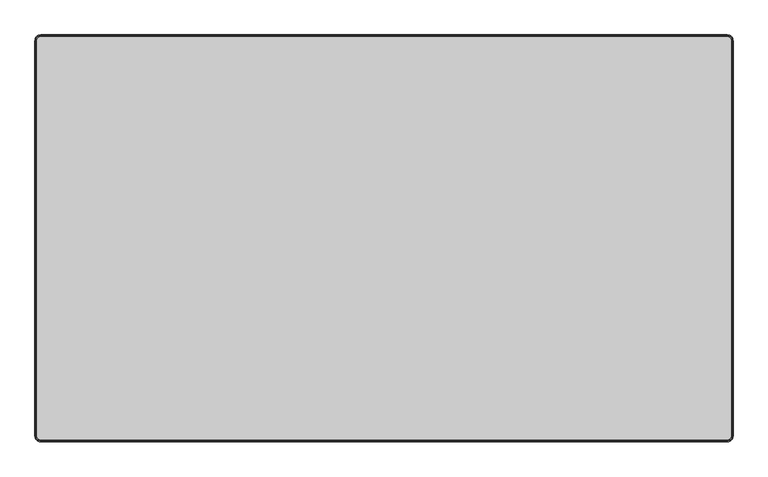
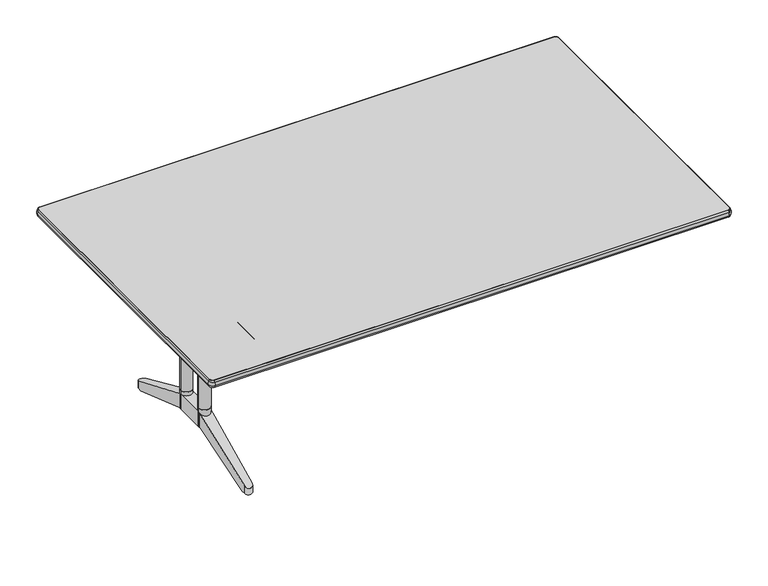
"""IFC4 building model written with IfcOpenShell, lengths in millimetres: furniture geometry."""

from ifc_helpers import new_model, si_unit, point, frame, frame_2d, origin, place, context, project, spatial, polyline, circle_curve, ellipse_curve, trimmed, segment, composite_curve, outline, extrude, source, transform, mapped, element, save
from ifc_brep_helpers import plane_surface, cylinder_surface, revolved_surface, advanced_brep


def furniture_3bf29cbd(model_context):
    return source(origin(), model_context, "Body", "SolidModel", [
        extrude(outline(composite_curve([segment(trimmed(circle_curve(frame_2d((-660.4, -154.0488451)), 20.0), [point((-680.4, -154.0488451))], [point((-640.4, -154.0488451))], False, "CARTESIAN"), True, "CONTINUOUS"), segment(trimmed(circle_curve(frame_2d((-660.4, -154.0488451)), 20.0), [point((-640.4, -154.0488451))], [point((-680.4, -154.0488451))], False, "CARTESIAN"), True, "CONTINUOUS")], self_intersect=False)), frame((0.0, 0.0, 193.3080085), z_axis=(0.0, 0.0, 1.0), x_axis=(1.0, 0.0, 0.0)), (0.0, 0.0, 1.0), 68.8536941),
        extrude(outline(composite_curve([segment(trimmed(circle_curve(frame_2d((-660.4, -44.0488461)), 20.0), [point((-680.4, -44.0488461))], [point((-640.4, -44.0488461))], False, "CARTESIAN"), True, "CONTINUOUS"), segment(trimmed(circle_curve(frame_2d((-660.4, -44.0488461)), 20.0), [point((-640.4, -44.0488461))], [point((-680.4, -44.0488461))], False, "CARTESIAN"), True, "CONTINUOUS")], self_intersect=False)), frame((0.0, 0.0, 193.3080085), z_axis=(0.0, 0.0, 1.0), x_axis=(1.0, 0.0, 0.0)), (0.0, 0.0, 1.0), 68.8536941),
        extrude(outline(composite_curve([segment(trimmed(circle_curve(frame_2d((-660.4, -154.0488451)), 20.0), [point((-680.4, -154.0488451))], [point((-640.4, -154.0488451))], False, "CARTESIAN"), True, "CONTINUOUS"), segment(trimmed(circle_curve(frame_2d((-660.4, -154.0488451)), 20.0), [point((-640.4, -154.0488451))], [point((-680.4, -154.0488451))], False, "CARTESIAN"), True, "CONTINUOUS")], self_intersect=False)), frame((0.0, 0.0, 262.1617027), z_axis=(0.0, 0.0, 1.0), x_axis=(1.0, 0.0, 0.0)), (0.0, 0.0, 1.0), 318.0882973),
        extrude(outline(composite_curve([segment(trimmed(circle_curve(frame_2d((-660.4, -44.0488461)), 20.0), [point((-680.4, -44.0488461))], [point((-640.4, -44.0488461))], False, "CARTESIAN"), True, "CONTINUOUS"), segment(trimmed(circle_curve(frame_2d((-660.4, -44.0488461)), 20.0), [point((-640.4, -44.0488461))], [point((-680.4, -44.0488461))], False, "CARTESIAN"), True, "CONTINUOUS")], self_intersect=False)), frame((0.0, 0.0, 262.1617027), z_axis=(0.0, 0.0, 1.0), x_axis=(1.0, 0.0, 0.0)), (0.0, 0.0, 1.0), 318.0882973),
        extrude(outline(polyline([(-634.3999882, 147.9511612), (-634.3999882, -352.0488426), (-686.4000118, -352.0488426), (-686.4000118, 147.9511612), (-634.3999882, 147.9511612)])), frame((0.0, 0.0, 676.2500168), z_axis=(0.0, 0.0, 1.0), x_axis=(1.0, 0.0, 0.0)), (0.0, 0.0, 1.0), 27.9999624),
        advanced_brep(
        [(-675.3998762, -140.8200278, 676.2500168), (-645.3998905, -140.8201331, 676.2500168), (-645.3998905, -134.0488456, 676.2500168), (-675.3998762, -134.0488456, 676.2500168), (-645.3998905, -57.2775581, 676.2500168), (-675.3998762, -57.2776634, 676.2500168), (-675.3998762, -64.0488456, 676.2500168), (-645.3998905, -64.0488456, 676.2500168), (-675.3998762, -57.2776634, 580.25), (-645.3998905, -57.2775581, 580.25), (-645.3998905, -140.8201331, 580.25), (-675.3998762, -140.8200278, 580.25), (-675.3998762, -134.0488456, 598.2500176), (-675.3998762, -64.0488456, 598.2500176), (-645.3998905, -64.0488456, 598.2500176), (-645.3998905, -134.0488456, 598.2500176)],
        [
            (0, 1, circle_curve(frame((-660.3999298, -154.0488451, 676.2500168), z_axis=(0.0, 0.0, 1.0), x_axis=(1.0, 0.0, 0.0)), 20.0)),
            (1, 2),
            (2, 3),
            (3, 0),
            (4, 5, circle_curve(frame((-660.3999298, -44.0488461, 676.2500168), z_axis=(0.0, 0.0, 1.0), x_axis=(1.0, 0.0, 0.0)), 20.0)),
            (5, 6),
            (6, 7),
            (7, 4),
            (8, 9, circle_curve(frame((-660.3999298, -44.0488461, 580.25), z_axis=(0.0, 0.0, -1.0), x_axis=(1.0, 0.0, 0.0)), 20.0)),
            (9, 10),
            (10, 11, circle_curve(frame((-660.3999298, -154.0488451, 580.25), z_axis=(0.0, 0.0, -1.0), x_axis=(1.0, 0.0, 0.0)), 20.0)),
            (11, 8),
            (11, 0),
            (3, 12),
            (12, 13),
            (13, 6),
            (5, 8),
            (10, 1),
            (9, 4),
            (7, 14),
            (14, 15),
            (15, 2),
            (15, 12),
            (14, 13),
        ],
        [
            plane_surface(frame((-675.3998762, -140.8200278, 676.2500168), z_axis=(0.0, 0.0, 1.0), x_axis=(0.0, -1.0, 0.0))),
            plane_surface(frame((-675.3998762, -140.8200278, 580.25), z_axis=(0.0, 0.0, -1.0), x_axis=(0.0, 1.0, 0.0))),
            plane_surface(frame((-675.3998762, -57.2776634, 676.2500168), z_axis=(-1.0, 0.0, 0.0), x_axis=(0.0, 0.0, -1.0))),
            cylinder_surface(frame((-660.3999298, -154.0488451, 580.25), z_axis=(0.0, 0.0, 1.0), x_axis=(1.0, 0.0, 0.0)), 20.0),
            plane_surface(frame((-645.3998905, -140.8201331, 676.2500168), z_axis=(1.0, 0.0, 0.0), x_axis=(0.0, 0.0, -1.0))),
            cylinder_surface(frame((-660.3999298, -44.0488461, 580.25), z_axis=(0.0, 0.0, 1.0), x_axis=(1.0, 0.0, 0.0)), 20.0),
            plane_surface(frame((-645.3998905, -134.0488456, 676.2500168), z_axis=(0.0, 1.0, 0.0), x_axis=(-1.0, 0.0, 0.0))),
            plane_surface(frame((-645.3998905, -134.0488456, 598.2500176), z_axis=(0.0, 0.0, 1.0), x_axis=(-1.0, 0.0, 0.0))),
            plane_surface(frame((-645.3998905, -64.0488456, 598.2500176), z_axis=(0.0, -1.0, 0.0), x_axis=(-1.0, 0.0, 0.0))),
        ],
        [
            (0, [[1, 2, 3, 4]]),
            (0, [[5, 6, 7, 8]]),
            (1, [[9, 10, 11, 12]]),
            (2, [[-12, 13, -4, 14, 15, 16, -6, 17]]),
            (3, [[-1, -13, -11, 18]]),
            (4, [[-10, 19, -8, 20, 21, 22, -2, -18]]),
            (5, [[-5, -19, -9, -17]]),
            (6, [[23, -14, -3, -22]]),
            (7, [[-23, -21, 24, -15]]),
            (8, [[-24, -20, -7, -16]]),
        ],
    ),
        advanced_brep(
        [(-640.4000182, -154.0488451, 248.3080085), (-640.4000182, -44.0488461, 248.3080085), (-680.4000182, -44.0488461, 248.3080085), (-680.4000182, -154.0488451, 248.3080085), (-680.4000182, -44.0488461, 193.3080085), (-680.4000182, -154.0488451, 193.3080085), (-640.4000182, -154.0488451, 193.3080085), (-640.4000182, -44.0488461, 193.3080085), (-646.9271049, 208.4135103, 105.0), (-673.872897, 208.4135103, 105.0), (-673.5262294, 221.8222582, 105.0), (-647.2737706, 221.8222564, 105.0), (-673.5262294, 221.8222582, 133.4205559), (-647.2737706, 221.8222564, 133.4205567), (-640.6000412, -36.3121196, 193.3080085), (-680.1999941, -36.3121196, 193.3080085), (-647.2737706, -419.9199475, 133.4205567), (-673.5262294, -419.9199493, 133.4205559), (-647.2737706, -419.9199475, 105.0), (-646.9271049, -406.5112014, 105.0), (-640.6000412, -161.7855715, 193.3080085), (-673.5262294, -419.9199493, 105.0), (-680.1999941, -161.7855715, 193.3080085), (-673.872897, -406.5112014, 105.0)],
        [
            (0, 1),
            (1, 2),
            (2, 3),
            (3, 0),
            (2, 4),
            (4, 5),
            (5, 3),
            (0, 6),
            (6, 7),
            (7, 1),
            (8, 9),
            (9, 10),
            (10, 11, circle_curve(frame((-660.4, 221.4828948, 105.0), z_axis=(0.0, 0.0, -1.0), x_axis=(1.0, 0.0, 0.0)), 13.1306156)),
            (11, 8),
            (12, 2),
            (1, 13),
            (13, 12, ellipse_curve(frame((-660.4, 221.4828948, 133.5672007), z_axis=(0.0, 0.3966672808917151, 0.9179624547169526), x_axis=(0.0, 0.9179624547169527, -0.39666728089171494)), 14.3040878, 13.1306156)),
            (8, 14),
            (14, 15),
            (15, 9),
            (16, 0),
            (3, 17),
            (17, 16, ellipse_curve(frame((-660.4, -419.5805859, 133.5672007), z_axis=(0.0, -0.3966672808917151, 0.9179624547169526), x_axis=(0.0, -0.9179624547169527, -0.39666728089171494)), 14.3040878, 13.1306156)),
            (16, 18),
            (18, 19),
            (19, 20),
            (20, 6),
            (17, 21),
            (21, 18, circle_curve(frame((-660.4, -419.5805859, 105.0), z_axis=(0.0, 0.0, 1.0), x_axis=(1.0, 0.0, 0.0)), 13.1306156)),
            (5, 22),
            (22, 23),
            (23, 21),
            (12, 10),
            (15, 4),
            (13, 11),
            (7, 14),
            (23, 19),
            (22, 20),
        ],
        [
            plane_surface(frame((-640.4000182, -44.0488461, 248.3080085), z_axis=(0.0, 0.0, 1.0), x_axis=(0.0, 1.0, 0.0))),
            plane_surface(frame((-680.4000182, -44.0488461, 248.3080085), z_axis=(-1.0, 0.0, 0.0), x_axis=(0.0, 0.0, -1.0))),
            plane_surface(frame((-640.4000182, -154.0488451, 248.3080085), z_axis=(1.0, 0.0, 0.0), x_axis=(0.0, 0.0, -1.0))),
            plane_surface(frame((-639.0205415, 208.4135103, 105.0), z_axis=(0.0, 0.0, -1.0), x_axis=(-1.0, 0.0, 0.0))),
            plane_surface(frame((-639.0205415, 235.9511544, 127.3152182), z_axis=(0.0, 0.3966672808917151, 0.9179624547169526), x_axis=(-1.0, 0.0, 0.0))),
            plane_surface(frame((-639.0205415, -36.3121196, 193.3080085), z_axis=(0.0, -0.3394229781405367, -0.9406338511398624), x_axis=(-1.0, 0.0, 0.0))),
            plane_surface(frame((-639.0205415, -154.0488451, 248.3080085), z_axis=(0.0, -0.3966672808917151, 0.9179624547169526), x_axis=(-1.0, 0.0, 0.0))),
            plane_surface(frame((-640.4000182, -154.0488451, 249.0000084), z_axis=(0.9996659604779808, -0.025845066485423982, 0.0), x_axis=(0.0, 0.0, -1.0))),
            cylinder_surface(frame((-660.4, -419.5805859, 90.0000025), z_axis=(0.0, 0.0, -1.0), x_axis=(1.0, 0.0, 0.0)), 13.1306156),
            plane_surface(frame((-673.5262294, -419.9199493, 249.0000084), z_axis=(-0.9996659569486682, -0.025845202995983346, 0.0), x_axis=(0.0, 0.0, -1.0))),
            plane_surface(frame((-680.4000182, -44.0488461, 249.0000084), z_axis=(-0.9996659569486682, 0.025845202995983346, 0.0), x_axis=(0.0, 0.0, -1.0))),
            cylinder_surface(frame((-660.4, 221.4828948, 0.0), z_axis=(0.0, 0.0, -1.0), x_axis=(1.0, 0.0, 0.0)), 13.1306156),
            plane_surface(frame((-647.2737706, 221.8222564, 249.0000084), z_axis=(0.9996659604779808, 0.025845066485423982, 0.0), x_axis=(0.0, 0.0, -1.0))),
            plane_surface(frame((-639.0205415, -434.0488456, 105.0), z_axis=(0.0, 0.0, -1.0), x_axis=(-1.0, 0.0, 0.0))),
            plane_surface(frame((-639.0205415, -406.5112014, 105.0), z_axis=(0.0, 0.3394229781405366, -0.9406338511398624), x_axis=(-1.0, 0.0, 0.0))),
            plane_surface(frame((-639.0205415, -44.0488461, 193.3080085), z_axis=(0.0, 0.0, -1.0), x_axis=(-1.0, 0.0, 0.0))),
        ],
        [
            (0, [[1, 2, 3, 4]]),
            (1, [[-3, 5, 6, 7]]),
            (2, [[-1, 8, 9, 10]]),
            (3, [[11, 12, 13, 14]]),
            (4, [[15, -2, 16, 17]]),
            (5, [[-11, 18, 19, 20]]),
            (6, [[21, -4, 22, 23]]),
            (7, [[24, 25, 26, 27, -8, -21]]),
            (8, [[-24, -23, 28, 29]]),
            (9, [[-28, -22, -7, 30, 31, 32]]),
            (10, [[33, -12, -20, 34, -5, -15]]),
            (11, [[-33, -17, 35, -13]]),
            (12, [[-35, -16, -10, 36, -18, -14]]),
            (13, [[37, -25, -29, -32]]),
            (14, [[-37, -31, 38, -26]]),
            (15, [[-19, -36, -9, -27, -38, -30, -6, -34]]),
        ],
    ),
        extrude(outline(composite_curve([segment(trimmed(circle_curve(frame_2d((-899.4, 419.3511544)), 10.0), [point((-909.4, 419.3511544))], [point((-899.4, 429.3511544))], False, "CARTESIAN"), True, "CONTINUOUS"), segment(polyline([(-899.4, 429.3511544), (899.4, 429.3511544)]), True, "CONTINUOUS"), segment(trimmed(circle_curve(frame_2d((899.4, 419.3511544)), 10.0), [point((899.4, 429.3511544))], [point((909.4, 419.3511544))], False, "CARTESIAN"), True, "CONTINUOUS"), segment(polyline([(909.4, 419.3511544), (909.4, -617.4488456)]), True, "CONTINUOUS"), segment(trimmed(circle_curve(frame_2d((899.4, -617.4488456)), 10.0), [point((909.4, -617.4488456))], [point((899.4, -627.4488456))], False, "CARTESIAN"), True, "CONTINUOUS"), segment(polyline([(899.4, -627.4488456), (-899.4, -627.4488456)]), True, "CONTINUOUS"), segment(trimmed(circle_curve(frame_2d((-899.4, -617.4488456)), 10.0), [point((-899.4, -627.4488456))], [point((-909.4, -617.4488456))], False, "CARTESIAN"), True, "CONTINUOUS"), segment(polyline([(-909.4, -617.4488456), (-909.4, 419.3511544)]), True, "CONTINUOUS")], self_intersect=False)), frame((0.0, 0.0, 704.2499792), z_axis=(0.0, 0.0, 1.0), x_axis=(1.0, 0.0, 0.0)), (0.0, 0.0, 1.0), 26.0000208),
        extrude(outline(composite_curve([segment(trimmed(circle_curve(frame_2d((690.249998, -660.4)), 3.5), [point((686.749998, -660.4))], [point((693.749998, -660.4))], False, "CARTESIAN"), True, "CONTINUOUS"), segment(trimmed(circle_curve(frame_2d((690.249998, -660.4)), 3.5), [point((693.749998, -660.4))], [point((686.749998, -660.4))], False, "CARTESIAN"), True, "CONTINUOUS")], self_intersect=False)), frame((0.0, -558.8394749, 0.0), z_axis=(0.0, 1.0, 0.0), x_axis=(0.0, 0.0, 1.0)), (0.0, 0.0, 1.0), 206.7906323),
        extrude(outline(composite_curve([segment(trimmed(circle_curve(frame_2d((690.249998, 660.4)), 3.5), [point((686.749998, 660.4))], [point((693.749998, 660.4))], False, "CARTESIAN"), True, "CONTINUOUS"), segment(trimmed(circle_curve(frame_2d((690.249998, 660.4)), 3.5), [point((693.749998, 660.4))], [point((686.749998, 660.4))], False, "CARTESIAN"), True, "CONTINUOUS")], self_intersect=False)), frame((0.0, -558.8394749, 0.0), z_axis=(0.0, 1.0, 0.0), x_axis=(0.0, 0.0, 1.0)), (0.0, 0.0, 1.0), 206.7906323),
        advanced_brep(
        [(-899.4, -627.4488456, 704.2499792), (-909.4, -617.4488456, 704.2499792), (-909.4, -617.4488456, 730.25), (-899.4, -627.4488456, 730.25), (-899.4, -630.8983863, 710.6562743), (-912.8495407, -617.4488456, 710.6562743), (-910.6436764, -617.4488456, 704.2499792), (-899.4, -628.692522, 704.2499792), (-899.4, -630.8983863, 723.843705), (-912.8495407, -617.4488456, 723.843705), (-899.4, -628.692522, 730.25), (-910.6436764, -617.4488456, 730.25), (899.4, -627.4488456, 730.25), (899.4, -627.4488456, 704.2499792), (899.4, -628.692522, 704.2499792), (899.4, -630.8983863, 710.6562743), (899.4, -630.8983863, 723.843705), (899.4, -628.692522, 730.25), (909.4, -617.4488456, 704.2499792), (909.4, -617.4488456, 730.25), (912.8495407, -617.4488456, 710.6562743), (910.6436764, -617.4488456, 704.2499792), (912.8495407, -617.4488456, 723.843705), (910.6436764, -617.4488456, 730.25), (909.4, 419.3511544, 730.25), (909.4, 419.3511544, 704.2499792), (910.6436764, 419.3511544, 704.2499792), (912.8495407, 419.3511544, 710.6562743), (912.8495407, 419.3511544, 723.843705), (910.6436764, 419.3511544, 730.25), (899.4, 429.3511544, 704.2499792), (899.4, 429.3511544, 730.25), (899.4, 432.8006952, 710.6562743), (899.4, 430.5948309, 704.2499792), (899.4, 432.8006952, 723.843705), (899.4, 430.5948309, 730.25), (-899.4, 429.3511544, 730.25), (-899.4, 429.3511544, 704.2499792), (-899.4, 430.5948309, 704.2499792), (-899.4, 432.8006952, 710.6562743), (-899.4, 432.8006952, 723.843705), (-899.4, 430.5948309, 730.25), (-909.4, 419.3511544, 704.2499792), (-909.4, 419.3511544, 730.25), (-912.8495407, 419.3511544, 710.6562743), (-910.6436764, 419.3511544, 704.2499792), (-912.8495407, 419.3511544, 723.843705), (-910.6436764, 419.3511544, 730.25)],
        [
            (0, 1, circle_curve(frame((-899.4, -617.4488456, 704.2499792), z_axis=(0.0, 0.0, -1.0), x_axis=(-1.0, 0.0, 0.0)), 10.0)),
            (1, 2),
            (2, 3, circle_curve(frame((-899.4, -617.4488456, 730.25), z_axis=(0.0, 0.0, 1.0), x_axis=(-1.0, 0.0, 0.0)), 10.0)),
            (3, 0),
            (4, 5, circle_curve(frame((-899.4, -617.4488456, 710.6562743), z_axis=(0.0, 0.0, -1.0), x_axis=(-1.0, 0.0, 0.0)), 13.4495407)),
            (5, 6),
            (6, 7, circle_curve(frame((-899.4, -617.4488456, 704.2499792), z_axis=(0.0, 0.0, 1.0), x_axis=(-1.0, 0.0, 0.0)), 11.2436764)),
            (7, 4),
            (8, 9, circle_curve(frame((-899.4, -617.4488456, 723.843705), z_axis=(0.0, 0.0, -1.0), x_axis=(-1.0, 0.0, 0.0)), 13.4495407)),
            (9, 5, circle_curve(frame((-899.6040596, -617.4488456, 717.2499896), z_axis=(0.0, -1.0, 0.0), x_axis=(1.0, 0.0, 0.0)), 14.7959404)),
            (4, 8, circle_curve(frame((-899.4, -617.6529051, 717.2499896), z_axis=(-1.0, 0.0, 0.0), x_axis=(0.0, 1.0, 0.0)), 14.7959404)),
            (10, 11, circle_curve(frame((-899.4, -617.4488456, 730.25), z_axis=(0.0, 0.0, -1.0), x_axis=(-1.0, 0.0, 0.0)), 11.2436764)),
            (11, 9),
            (8, 10),
            (3, 12),
            (12, 13),
            (13, 0),
            (7, 14),
            (14, 15),
            (15, 4),
            (15, 16, circle_curve(frame((899.4, -617.6529051, 717.2499896), z_axis=(-1.0, 0.0, 0.0), x_axis=(0.0, 1.0, 0.0)), 14.7959404)),
            (16, 8),
            (16, 17),
            (17, 10),
            (18, 13, circle_curve(frame((899.4, -617.4488456, 704.2499792), z_axis=(0.0, 0.0, -1.0), x_axis=(0.0, -1.0, 0.0)), 10.0)),
            (12, 19, circle_curve(frame((899.4, -617.4488456, 730.25), z_axis=(0.0, 0.0, 1.0), x_axis=(0.0, -1.0, 0.0)), 10.0)),
            (19, 18),
            (20, 15, circle_curve(frame((899.4, -617.4488456, 710.6562743), z_axis=(0.0, 0.0, -1.0), x_axis=(0.0, -1.0, 0.0)), 13.4495407)),
            (14, 21, circle_curve(frame((899.4, -617.4488456, 704.2499792), z_axis=(0.0, 0.0, 1.0), x_axis=(0.0, -1.0, 0.0)), 11.2436764)),
            (21, 20),
            (22, 16, circle_curve(frame((899.4, -617.4488456, 723.843705), z_axis=(0.0, 0.0, -1.0), x_axis=(0.0, -1.0, 0.0)), 13.4495407)),
            (20, 22, circle_curve(frame((899.6040596, -617.4488456, 717.2499896), z_axis=(0.0, -1.0, 0.0), x_axis=(-1.0, 0.0, 0.0)), 14.7959404)),
            (23, 17, circle_curve(frame((899.4, -617.4488456, 730.25), z_axis=(0.0, 0.0, -1.0), x_axis=(0.0, -1.0, 0.0)), 11.2436764)),
            (22, 23),
            (19, 24),
            (24, 25),
            (25, 18),
            (21, 26),
            (26, 27),
            (27, 20),
            (27, 28, circle_curve(frame((899.6040596, 419.3511544, 717.2499896), z_axis=(0.0, -1.0, 0.0), x_axis=(-1.0, 0.0, 0.0)), 14.7959404)),
            (28, 22),
            (28, 29),
            (29, 23),
            (30, 25, circle_curve(frame((899.4, 419.3511544, 704.2499792), z_axis=(0.0, 0.0, -1.0), x_axis=(1.0, 0.0, 0.0)), 10.0)),
            (24, 31, circle_curve(frame((899.4, 419.3511544, 730.25), z_axis=(0.0, 0.0, 1.0), x_axis=(1.0, 0.0, 0.0)), 10.0)),
            (31, 30),
            (32, 27, circle_curve(frame((899.4, 419.3511544, 710.6562743), z_axis=(0.0, 0.0, -1.0), x_axis=(1.0, 0.0, 0.0)), 13.4495407)),
            (26, 33, circle_curve(frame((899.4, 419.3511544, 704.2499792), z_axis=(0.0, 0.0, 1.0), x_axis=(1.0, 0.0, 0.0)), 11.2436764)),
            (33, 32),
            (34, 28, circle_curve(frame((899.4, 419.3511544, 723.843705), z_axis=(0.0, 0.0, -1.0), x_axis=(1.0, 0.0, 0.0)), 13.4495407)),
            (32, 34, circle_curve(frame((899.4, 419.555214, 717.2499896), z_axis=(1.0, 0.0, 0.0), x_axis=(0.0, -1.0, 0.0)), 14.7959404)),
            (35, 29, circle_curve(frame((899.4, 419.3511544, 730.25), z_axis=(0.0, 0.0, -1.0), x_axis=(1.0, 0.0, 0.0)), 11.2436764)),
            (34, 35),
            (31, 36),
            (36, 37),
            (37, 30),
            (33, 38),
            (38, 39),
            (39, 32),
            (39, 40, circle_curve(frame((-899.4, 419.555214, 717.2499896), z_axis=(1.0, 0.0, 0.0), x_axis=(0.0, -1.0, 0.0)), 14.7959404)),
            (40, 34),
            (40, 41),
            (41, 35),
            (42, 37, circle_curve(frame((-899.4, 419.3511544, 704.2499792), z_axis=(0.0, 0.0, -1.0), x_axis=(0.0, 1.0, 0.0)), 10.0)),
            (36, 43, circle_curve(frame((-899.4, 419.3511544, 730.25), z_axis=(0.0, 0.0, 1.0), x_axis=(0.0, 1.0, 0.0)), 10.0)),
            (43, 42),
            (44, 39, circle_curve(frame((-899.4, 419.3511544, 710.6562743), z_axis=(0.0, 0.0, -1.0), x_axis=(0.0, 1.0, 0.0)), 13.4495407)),
            (38, 45, circle_curve(frame((-899.4, 419.3511544, 704.2499792), z_axis=(0.0, 0.0, 1.0), x_axis=(0.0, 1.0, 0.0)), 11.2436764)),
            (45, 44),
            (46, 40, circle_curve(frame((-899.4, 419.3511544, 723.843705), z_axis=(0.0, 0.0, -1.0), x_axis=(0.0, 1.0, 0.0)), 13.4495407)),
            (44, 46, circle_curve(frame((-899.6040596, 419.3511544, 717.2499896), z_axis=(0.0, 1.0, 0.0), x_axis=(1.0, 0.0, 0.0)), 14.7959404)),
            (47, 41, circle_curve(frame((-899.4, 419.3511544, 730.25), z_axis=(0.0, 0.0, -1.0), x_axis=(0.0, 1.0, 0.0)), 11.2436764)),
            (46, 47),
            (43, 2),
            (1, 42),
            (45, 6),
            (5, 44),
            (9, 46),
            (11, 47),
        ],
        [
            revolved_surface(polyline([(-909.4, -617.4488456, 730.25), (-909.4, -617.4488456, 704.2499792)]), (-899.4, -617.4488456, 730.25), (0.0, 0.0, 1.0)),
            revolved_surface(polyline([(-910.6436764, -617.4488456, 704.2499792), (-912.8495407, -617.4488456, 710.6562743)]), (-899.4, -617.4488456, 730.25), (0.0, 0.0, 1.0)),
            revolved_surface(trimmed(ellipse_curve(frame((-899.6040596, -617.4488456, 717.2499896), z_axis=(0.0, 1.0, 0.0), x_axis=(1.0, 0.0, 0.0)), 14.7959404, 14.7959404), [point((-912.8495407, -617.4488456, 710.6562743))], [point((-912.8495407, -617.4488456, 723.843705))], True, "CARTESIAN"), (-899.4, -617.4488456, 730.25), (0.0, 0.0, 1.0)),
            revolved_surface(polyline([(-912.8495407, -617.4488456, 723.843705), (-910.6436764, -617.4488456, 730.25)]), (-899.4, -617.4488456, 730.25), (0.0, 0.0, 1.0)),
            plane_surface(frame((-899.4, -627.4488456, 730.25), z_axis=(0.0, 1.0, 0.0), x_axis=(1.0, 0.0, 0.0))),
            plane_surface(frame((-899.4, -628.692522, 704.2499792), z_axis=(0.0, -0.9455185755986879, -0.32556815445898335), x_axis=(1.0, 0.0, 0.0))),
            cylinder_surface(frame((-899.4, -617.6529051, 717.2499896), z_axis=(-1.0, 0.0, 0.0), x_axis=(0.0, 1.0, 0.0)), 14.7959404),
            plane_surface(frame((-899.4, -630.8983863, 723.843705), z_axis=(0.0, -0.945518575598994, 0.32556815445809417), x_axis=(1.0, 0.0, 0.0))),
            revolved_surface(polyline([(899.4, -627.4488456, 730.25), (899.4, -627.4488456, 704.2499792)]), (899.4, -617.4488456, 730.25), (0.0, 0.0, 1.0)),
            revolved_surface(polyline([(899.4, -628.692522, 704.2499792), (899.4, -630.8983863, 710.6562743)]), (899.4, -617.4488456, 730.25), (0.0, 0.0, 1.0)),
            revolved_surface(trimmed(ellipse_curve(frame((899.4, -617.6529051, 717.2499896), z_axis=(-1.0, 0.0, 0.0), x_axis=(0.0, 1.0, 0.0)), 14.7959404, 14.7959404), [point((899.4, -630.8983863, 710.6562743))], [point((899.4, -630.8983863, 723.843705))], True, "CARTESIAN"), (899.4, -617.4488456, 730.25), (0.0, 0.0, 1.0)),
            revolved_surface(polyline([(899.4, -630.8983863, 723.843705), (899.4, -628.692522, 730.25)]), (899.4, -617.4488456, 730.25), (0.0, 0.0, 1.0)),
            plane_surface(frame((909.4, -617.4488456, 730.25), z_axis=(-1.0, 0.0, 0.0), x_axis=(0.0, 1.0, 0.0))),
            plane_surface(frame((910.6436764, -617.4488456, 704.2499792), z_axis=(0.9455185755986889, 0.0, -0.32556815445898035), x_axis=(0.0, 1.0, 0.0))),
            cylinder_surface(frame((899.6040596, -617.4488456, 717.2499896), z_axis=(0.0, -1.0, 0.0), x_axis=(-1.0, 0.0, 0.0)), 14.7959404),
            plane_surface(frame((912.8495407, -617.4488456, 723.843705), z_axis=(0.945518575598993, 0.0, 0.32556815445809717), x_axis=(0.0, 1.0, 0.0))),
            revolved_surface(polyline([(909.4, 419.3511544, 730.25), (909.4, 419.3511544, 704.2499792)]), (899.4, 419.3511544, 730.25), (0.0, 0.0, 1.0)),
            revolved_surface(polyline([(910.6436764, 419.3511544, 704.2499792), (912.8495407, 419.3511544, 710.6562743)]), (899.4, 419.3511544, 730.25), (0.0, 0.0, 1.0)),
            revolved_surface(trimmed(ellipse_curve(frame((899.6040596, 419.3511544, 717.2499896), z_axis=(0.0, -1.0, 0.0), x_axis=(-1.0, 0.0, 0.0)), 14.7959404, 14.7959404), [point((912.8495407, 419.3511544, 710.6562743))], [point((912.8495407, 419.3511544, 723.843705))], True, "CARTESIAN"), (899.4, 419.3511544, 730.25), (0.0, 0.0, 1.0)),
            revolved_surface(polyline([(912.8495407, 419.3511544, 723.843705), (910.6436764, 419.3511544, 730.25)]), (899.4, 419.3511544, 730.25), (0.0, 0.0, 1.0)),
            plane_surface(frame((899.4, 429.3511544, 730.25), z_axis=(0.0, -1.0, 0.0), x_axis=(-1.0, 0.0, 0.0))),
            plane_surface(frame((899.4, 430.5948309, 704.2499792), z_axis=(0.0, 0.9455185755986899, -0.32556815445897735), x_axis=(-1.0, 0.0, 0.0))),
            cylinder_surface(frame((899.4, 419.555214, 717.2499896), z_axis=(1.0, 0.0, 0.0), x_axis=(0.0, -1.0, 0.0)), 14.7959404),
            plane_surface(frame((899.4, 432.8006952, 723.843705), z_axis=(0.0, 0.945518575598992, 0.32556815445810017), x_axis=(-1.0, 0.0, 0.0))),
            revolved_surface(polyline([(-899.4, 429.3511544, 730.25), (-899.4, 429.3511544, 704.2499792)]), (-899.4, 419.3511544, 730.25), (0.0, 0.0, 1.0)),
            revolved_surface(polyline([(-899.4, 430.5948309, 704.2499792), (-899.4, 432.8006952, 710.6562743)]), (-899.4, 419.3511544, 730.25), (0.0, 0.0, 1.0)),
            revolved_surface(trimmed(ellipse_curve(frame((-899.4, 419.555214, 717.2499896), z_axis=(1.0, 0.0, 0.0), x_axis=(0.0, -1.0, 0.0)), 14.7959404, 14.7959404), [point((-899.4, 432.8006952, 710.6562743))], [point((-899.4, 432.8006952, 723.843705))], True, "CARTESIAN"), (-899.4, 419.3511544, 730.25), (0.0, 0.0, 1.0)),
            revolved_surface(polyline([(-899.4, 432.8006952, 723.843705), (-899.4, 430.5948309, 730.25)]), (-899.4, 419.3511544, 730.25), (0.0, 0.0, 1.0)),
            plane_surface(frame((-909.4, 419.3511544, 730.25), z_axis=(1.0, 0.0, 0.0), x_axis=(0.0, -1.0, 0.0))),
            plane_surface(frame((-910.6436764, 419.3511544, 704.2499792), z_axis=(-0.9455185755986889, 0.0, -0.32556815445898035), x_axis=(0.0, -1.0, 0.0))),
            cylinder_surface(frame((-899.6040596, 419.3511544, 717.2499896), z_axis=(0.0, 1.0, 0.0), x_axis=(1.0, 0.0, 0.0)), 14.7959404),
            plane_surface(frame((-912.8495407, 419.3511544, 723.843705), z_axis=(-0.945518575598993, 0.0, 0.32556815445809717), x_axis=(0.0, -1.0, 0.0))),
            plane_surface(frame((-909.4, 419.3511544, 704.2499792), z_axis=(0.0, 0.0, -1.0), x_axis=(0.0, -1.0, 0.0))),
            plane_surface(frame((-910.6436764, 419.3511544, 730.25), z_axis=(0.0, 0.0, 1.0), x_axis=(0.0, -1.0, 0.0))),
        ],
        [
            (0, [[1, 2, 3, 4]]),
            (1, [[5, 6, 7, 8]]),
            (2, [[9, 10, -5, 11]]),
            (3, [[12, 13, -9, 14]]),
            (4, [[-4, 15, 16, 17]]),
            (5, [[-8, 18, 19, 20]]),
            (6, [[-11, -20, 21, 22]]),
            (7, [[-14, -22, 23, 24]]),
            (8, [[25, -16, 26, 27]]),
            (9, [[28, -19, 29, 30]]),
            (10, [[31, -21, -28, 32]]),
            (11, [[33, -23, -31, 34]]),
            (12, [[-27, 35, 36, 37]]),
            (13, [[-30, 38, 39, 40]]),
            (14, [[-32, -40, 41, 42]]),
            (15, [[-34, -42, 43, 44]]),
            (16, [[45, -36, 46, 47]]),
            (17, [[48, -39, 49, 50]]),
            (18, [[51, -41, -48, 52]]),
            (19, [[53, -43, -51, 54]]),
            (20, [[-47, 55, 56, 57]]),
            (21, [[-50, 58, 59, 60]]),
            (22, [[-52, -60, 61, 62]]),
            (23, [[-54, -62, 63, 64]]),
            (24, [[65, -56, 66, 67]]),
            (25, [[68, -59, 69, 70]]),
            (26, [[71, -61, -68, 72]]),
            (27, [[73, -63, -71, 74]]),
            (28, [[-67, 75, -2, 76]]),
            (29, [[-70, 77, -6, 78]]),
            (30, [[-72, -78, -10, 79]]),
            (31, [[-74, -79, -13, 80]]),
            (32, [[-77, -69, -58, -49, -38, -29, -18, -7], [-57, -65, -76, -1, -17, -25, -37, -45]]),
            (33, [[-64, -73, -80, -12, -24, -33, -44, -53], [-75, -66, -55, -46, -35, -26, -15, -3]]),
        ],
    ),
        advanced_brep(
        [(-686.3999286, -558.8394749, 701.9835614), (-686.3999286, -558.8394749, 686.9835614), (-605.5927788, -558.8394749, 678.983541), (-604.400359, -558.8394749, 693.983541), (604.400359, -558.8394749, 693.983541), (605.5927788, -558.8394749, 678.983541), (686.2748715, -558.8394749, 701.9835614), (686.2748715, -558.8394749, 686.9835614), (654.4003594, -558.8394749, 701.9835614), (655.5927792, -558.8394749, 686.9835614), (-654.4003594, -558.8394749, 701.9835614), (-655.5927792, -558.8394749, 686.9835614)],
        [
            (0, 1, circle_curve(frame((-686.3999286, -558.8394749, 694.4835614), z_axis=(-1.0, 0.0, 0.0), x_axis=(0.0, 0.0, -1.0)), 7.5)),
            (1, 0, circle_curve(frame((-686.3999286, -558.8394749, 694.4835614), z_axis=(-1.0, 0.0, 0.0), x_axis=(0.0, 0.0, -1.0)), 7.5)),
            (2, 3, ellipse_curve(frame((-604.9965689, -558.8394749, 686.483541), z_axis=(0.9968551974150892, 0.0, -0.07924465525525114), x_axis=(-0.07924465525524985, 0.0, -0.9968551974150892)), 7.5236604, 7.5)),
            (3, 4),
            (4, 5, ellipse_curve(frame((604.9965689, -558.8394749, 686.483541), z_axis=(-0.9968551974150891, 0.0, -0.07924465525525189), x_axis=(-0.0792446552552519, 0.0, 0.9968551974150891)), 7.5236604, 7.5)),
            (5, 2),
            (3, 2, ellipse_curve(frame((-604.9965689, -558.8394749, 686.483541), z_axis=(0.9968551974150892, 0.0, -0.07924465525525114), x_axis=(-0.07924465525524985, 0.0, -0.9968551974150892)), 7.5236604, 7.5)),
            (5, 4, ellipse_curve(frame((604.9965689, -558.8394749, 686.483541), z_axis=(-0.9968551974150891, 0.0, -0.07924465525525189), x_axis=(-0.0792446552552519, 0.0, 0.9968551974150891)), 7.5236604, 7.5)),
            (6, 7, circle_curve(frame((686.2748715, -558.8394749, 694.4835614), z_axis=(1.0, 0.0, 0.0), x_axis=(0.0, 0.0, -1.0)), 7.5)),
            (7, 6, circle_curve(frame((686.2748715, -558.8394749, 694.4835614), z_axis=(1.0, 0.0, 0.0), x_axis=(0.0, 0.0, -1.0)), 7.5)),
            (4, 8),
            (8, 9, ellipse_curve(frame((654.9965693, -558.8394749, 694.4835614), z_axis=(-0.9968551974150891, 0.0, -0.07924465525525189), x_axis=(0.0792446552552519, 0.0, -0.9968551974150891)), 7.5236604, 7.5)),
            (9, 5),
            (9, 8, ellipse_curve(frame((654.9965693, -558.8394749, 694.4835614), z_axis=(-0.9968551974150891, 0.0, -0.07924465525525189), x_axis=(0.0792446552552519, 0.0, -0.9968551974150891)), 7.5236604, 7.5)),
            (8, 6),
            (7, 9),
            (0, 10),
            (10, 11, ellipse_curve(frame((-654.9965693, -558.8394749, 694.4835614), z_axis=(-0.9968551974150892, 0.0, 0.07924465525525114), x_axis=(-0.07924465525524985, 0.0, -0.9968551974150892)), 7.5236604, 7.5)),
            (11, 1),
            (11, 10, ellipse_curve(frame((-654.9965693, -558.8394749, 694.4835614), z_axis=(-0.9968551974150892, 0.0, 0.07924465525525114), x_axis=(-0.07924465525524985, 0.0, -0.9968551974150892)), 7.5236604, 7.5)),
            (10, 3),
            (2, 11),
        ],
        [
            plane_surface(frame((-686.3999286, -632.4488456, 664.2500082), z_axis=(-1.0, 0.0, 0.0), x_axis=(0.0, 1.0, 0.0))),
            cylinder_surface(frame((-607.3999746, -558.8394749, 686.483541), z_axis=(-1.0, 0.0, 0.0), x_axis=(0.0, 0.0, -1.0)), 7.5),
            plane_surface(frame((686.2748715, -632.4488456, 664.2500082), z_axis=(1.0, 0.0, 0.0), x_axis=(0.0, 1.0, 0.0))),
            cylinder_surface(frame((602.6233486, -558.8394749, 686.1038248), z_axis=(-0.9874405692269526, 0.0, -0.1579908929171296), x_axis=(0.1579908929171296, 0.0, -0.9874405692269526)), 7.5),
            cylinder_surface(frame((657.399975, -558.8394749, 694.4835614), z_axis=(-1.0, 0.0, 0.0), x_axis=(0.0, 0.0, -1.0)), 7.5),
            cylinder_surface(frame((-686.3999286, -558.8394749, 694.4835614), z_axis=(-1.0, 0.0, 0.0), x_axis=(0.0, 0.0, -1.0)), 7.5),
            cylinder_surface(frame((-652.6233489, -558.8394749, 694.1038452), z_axis=(-0.9874405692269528, 0.0, 0.15799089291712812), x_axis=(-0.15799089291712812, 0.0, -0.9874405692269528)), 7.5),
        ],
        [
            (0, [[1, 2]]),
            (1, [[3, 4, 5, 6]]),
            (1, [[7, -6, 8, -4]]),
            (2, [[9, 10]]),
            (3, [[-5, 11, 12, 13]]),
            (3, [[-8, -13, 14, -11]]),
            (4, [[-12, 15, -10, 16]]),
            (4, [[-14, -16, -9, -15]]),
            (5, [[-1, 17, 18, 19]]),
            (5, [[-2, -19, 20, -17]]),
            (6, [[-18, 21, -3, 22]]),
            (6, [[-20, -22, -7, -21]]),
        ],
    ),
        extrude(outline(polyline([(-66.0488461, 600.2500046), (-66.0488461, 658.2500254), (-64.0488456, 658.2500254), (-64.0488456, 598.2500176), (-134.0488456, 598.2500176), (-134.0488456, 658.2500254), (-132.048845, 658.2500254), (-132.048845, 600.2500046), (-66.0488461, 600.2500046)])), frame((-675.4, 0.0, 0.0), z_axis=(1.0, 0.0, 0.0), x_axis=(0.0, 1.0, 0.0)), (0.0, 0.0, 1.0), 1350.8),
    ])


if __name__ == "__main__":
    model = new_model("IFC4")
    model_context = context("Model", 3, world=origin())
    ifc_project = project(units=[si_unit("LENGTHUNIT", "METRE", prefix="MILLI")], contexts=[model_context])
    site = spatial("IfcSite", under=ifc_project)
    building = spatial("IfcBuilding", under=site)
    placement = place(None, origin())
    furniture_shape = furniture_3bf29cbd(model_context)
    element("IfcFurniture", 1, ObjectType="Furniture_Wilkhahn_Timetable_614-00_Shift : 42\"W x 72\"L", at=placement, inside=building, context=model_context, shape_type="MappedRepresentation", body=[
        mapped(furniture_shape, transform((0.0, 0.0, 0.0), x_axis=(1.0, 0.0, 0.0), y_axis=(0.0, 1.0, 0.0), z_axis=(0.0, 0.0, 1.0))),
    ])
    save(model, "model.ifc")
